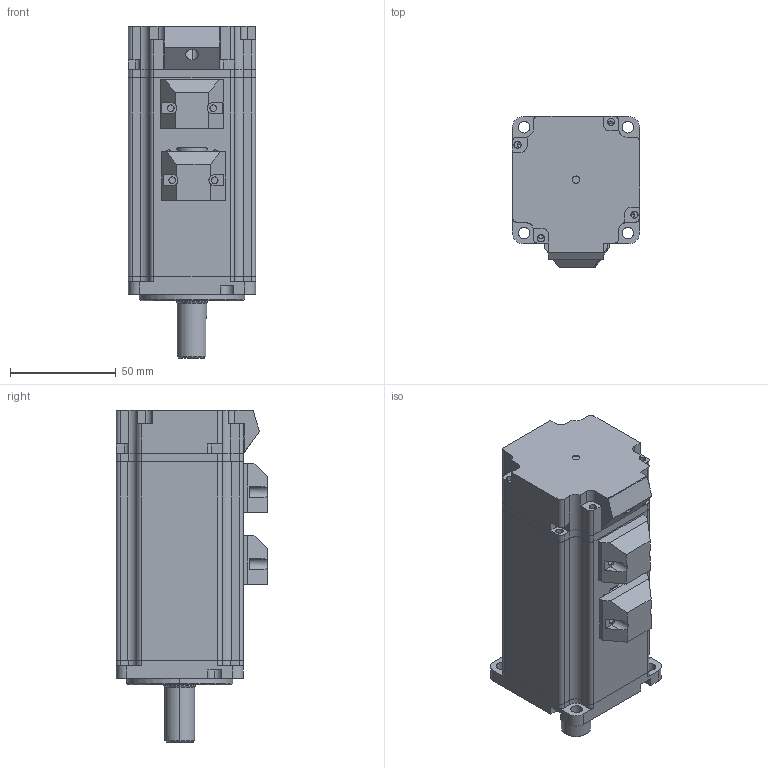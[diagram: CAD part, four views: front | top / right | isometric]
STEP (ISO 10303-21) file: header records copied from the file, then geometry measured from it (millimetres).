
FILE_DESCRIPTION (( 'STEP AP214' ), '1' );
FILE_NAME ('RSNA-M06J1330A-Z .STEP', '2022-05-21T04:53:08', ( '' ), ( '' ), 'SwSTEP 2.0', 'SolidWorks 2020', '' );
FILE_SCHEMA (( 'AUTOMOTIVE_DESIGN' ));
Length unit declared in the file: millimetre
Products named in the file (11): 6202ZZ粣創; 666; S60DG-B-009; 侜督揤盄裔; 隅赽; RSNA-M06J1330A-Z ; S60DG-A-002; 6000ZZ粣創; 60SF400-K1444-011; S60-H93.7-001; 綴欶
Assembly tree (11 placements, depth 2):
  RSNA-M06J1330A-Z 
    S60-H93.7-001
    6000ZZ粣創
    60SF400-K1444-011
    6202ZZ粣創
    666
    S60DG-A-002
    S60DG-B-009
    隅赽
    侜督揤盄裔  x2
    綴欶
Bounding box: 60 x 71.5 x 156.7 mm (x, y, z)
Volume: 276844.5 mm3; surface area: 125702.8 mm2
Topology: 13 solids, 13 shells, 672 faces, 1766 edges, 1140 vertices
Faces by surface type: cylinder 339, plane 265, cone 52, torus 16
Entity records: 20812 total; most frequent: CARTESIAN_POINT 3969, DIRECTION 3416, ORIENTED_EDGE 3180, EDGE_CURVE 1590, AXIS2_PLACEMENT_3D 1307, VERTEX_POINT 1040, VECTOR 802, LINE 802
